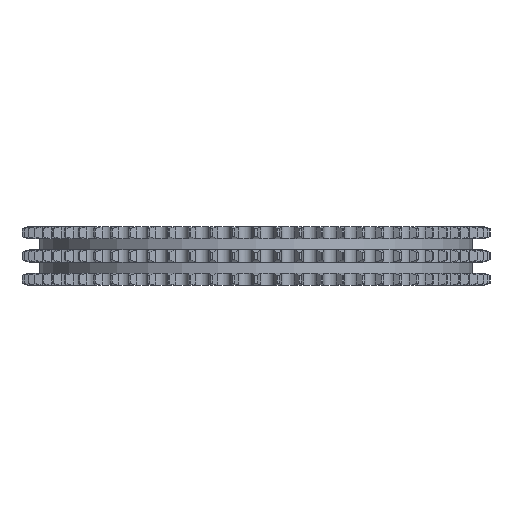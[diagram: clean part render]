
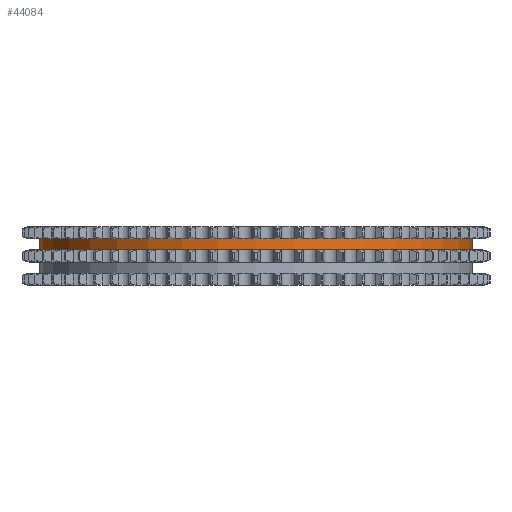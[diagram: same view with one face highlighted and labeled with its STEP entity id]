
A CAD part, left-side view. The second image highlights one B-rep face of the part: STEP entity #44084.
In plain terms, the highlighted cylindrical face has radius 94.091 mm (diameter 188.181 mm), a partial arc.
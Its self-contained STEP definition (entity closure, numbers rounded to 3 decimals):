
#8129=DIRECTION('',(0.,0.,-1.));
#8130=VECTOR('',#8129,4.85);
#8131=CARTESIAN_POINT('',(0.,94.091,7.5));
#8132=LINE('',#8131,#8130);
#8136=CARTESIAN_POINT('',(0.,0.,7.5));
#8137=DIRECTION('',(0.,0.,1.));
#8138=DIRECTION('',(0.,1.,0.));
#8139=AXIS2_PLACEMENT_3D('',#8136,#8137,#8138);
#8144=DIRECTION('',(0.,0.,-1.));
#8145=VECTOR('',#8144,4.85);
#8146=CARTESIAN_POINT('',(0.,-94.091,7.5));
#8147=LINE('',#8146,#8145);
#8151=CARTESIAN_POINT('',(0.,0.,2.65));
#8152=DIRECTION('',(0.,0.,1.));
#8153=DIRECTION('',(0.,1.,0.));
#8154=AXIS2_PLACEMENT_3D('',#8151,#8152,#8153);
#35624=CARTESIAN_POINT('',(0.,94.091,7.5));
#35625=CARTESIAN_POINT('',(0.,94.091,2.65));
#35626=VERTEX_POINT('',#35624);
#35627=VERTEX_POINT('',#35625);
#35628=CARTESIAN_POINT('',(0.,-94.091,7.5));
#35629=CARTESIAN_POINT('',(0.,-94.091,2.65));
#35630=VERTEX_POINT('',#35628);
#35631=VERTEX_POINT('',#35629);
#44072=CARTESIAN_POINT('',(0.,0.,8.25));
#44073=DIRECTION('',(0.,0.,-1.));
#44074=DIRECTION('',(0.,-1.,0.));
#44075=AXIS2_PLACEMENT_3D('',#44072,#44073,#44074);
#44076=CYLINDRICAL_SURFACE('',#44075,94.091);
#44077=ORIENTED_EDGE('',*,*,#44062,.F.);
#44078=ORIENTED_EDGE('',*,*,#44052,.T.);
#44079=ORIENTED_EDGE('',*,*,#44066,.T.);
#44081=ORIENTED_EDGE('',*,*,#44080,.F.);
#44082=EDGE_LOOP('',(#44077,#44078,#44079,#44081));
#44083=FACE_OUTER_BOUND('',#44082,.F.);
#44084=ADVANCED_FACE('',(#44083),#44076,.T.);
#8140=CIRCLE('',#8139,94.091);
#8155=CIRCLE('',#8154,94.091);
#44052=EDGE_CURVE('',#35626,#35630,#8140,.T.);
#44062=EDGE_CURVE('',#35626,#35627,#8132,.T.);
#44066=EDGE_CURVE('',#35630,#35631,#8147,.T.);
#44080=EDGE_CURVE('',#35627,#35631,#8155,.T.);
